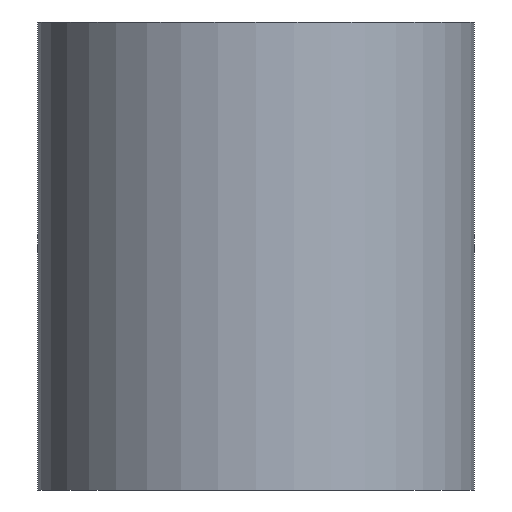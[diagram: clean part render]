
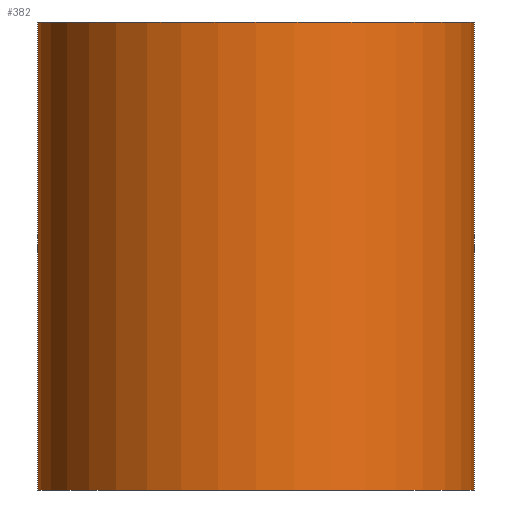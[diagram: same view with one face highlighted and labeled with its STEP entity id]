
A CAD part, front view. The second image highlights one B-rep face of the part: STEP entity #382.
In plain terms, the highlighted cylindrical face has radius 7 mm (diameter 14 mm), a full revolution.
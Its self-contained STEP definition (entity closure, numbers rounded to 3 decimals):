
#275=CARTESIAN_POINT('',(0.0,0.0,0.0));
#276=DIRECTION('',(0.0,0.0,1.0));
#277=DIRECTION('',(-1.0,0.0,0.0));
#278=AXIS2_PLACEMENT_3D('',#275,#276,#277);
#279=CYLINDRICAL_SURFACE('',#278,7.);
#280=CARTESIAN_POINT('',(7.,0.,7.5));
#281=VERTEX_POINT('',#280);
#282=CARTESIAN_POINT('',(0.0,0.0,7.5));
#283=DIRECTION('',(0.0,0.0,-1.0));
#284=DIRECTION('',(-1.0,0.0,0.0));
#285=AXIS2_PLACEMENT_3D('',#282,#283,#284);
#286=CIRCLE('',#285,7.);
#287=EDGE_CURVE('',#281,#281,#286,.T.);
#288=ORIENTED_EDGE('',*,*,#287,.T.);
#289=EDGE_LOOP('',(#288));
#290=FACE_OUTER_BOUND('',#289,.T.);
#291=CARTESIAN_POINT('',(7.,0.,-7.5));
#292=VERTEX_POINT('',#291);
#293=CARTESIAN_POINT('',(0.0,0.0,-7.5));
#294=DIRECTION('',(0.0,0.0,1.0));
#295=DIRECTION('',(-1.0,0.0,0.0));
#296=AXIS2_PLACEMENT_3D('',#293,#294,#295);
#297=CIRCLE('',#296,7.);
#298=EDGE_CURVE('',#292,#292,#297,.T.);
#299=ORIENTED_EDGE('',*,*,#298,.T.);
#300=EDGE_LOOP('',(#299));
#301=FACE_BOUND('',#300,.T.);
#302=CARTESIAN_POINT('',(-5.0,4.899,0.0));
#303=VERTEX_POINT('',#302);
#304=CARTESIAN_POINT('',(-5.0,4.899,0.));
#305=CARTESIAN_POINT('',(-5.0,4.899,0.486));
#306=CARTESIAN_POINT('',(-4.927,4.976,0.979));
#307=CARTESIAN_POINT('',(-4.786,5.108,1.445));
#308=CARTESIAN_POINT('',(-4.592,5.29,2.091));
#309=CARTESIAN_POINT('',(-4.265,5.572,2.686));
#310=CARTESIAN_POINT('',(-3.859,5.841,3.18));
#311=CARTESIAN_POINT('',(-3.664,5.969,3.416));
#312=CARTESIAN_POINT('',(-3.458,6.092,3.625));
#313=CARTESIAN_POINT('',(-3.223,6.214,3.823));
#314=CARTESIAN_POINT('',(-2.808,6.429,4.173));
#315=CARTESIAN_POINT('',(-2.311,6.631,4.472));
#316=CARTESIAN_POINT('',(-1.769,6.773,4.677));
#317=CARTESIAN_POINT('',(-1.361,6.879,4.831));
#318=CARTESIAN_POINT('',(-0.928,6.952,4.932));
#319=CARTESIAN_POINT('',(-0.496,6.982,4.975));
#320=CARTESIAN_POINT('',(-0.133,7.008,5.011));
#321=CARTESIAN_POINT('',(0.225,7.006,5.008));
#322=CARTESIAN_POINT('',(0.588,6.975,4.965));
#323=CARTESIAN_POINT('',(1.153,6.928,4.898));
#324=CARTESIAN_POINT('',(1.715,6.808,4.73));
#325=CARTESIAN_POINT('',(2.22,6.638,4.48));
#326=CARTESIAN_POINT('',(2.529,6.535,4.327));
#327=CARTESIAN_POINT('',(2.817,6.415,4.144));
#328=CARTESIAN_POINT('',(3.077,6.287,3.941));
#329=CARTESIAN_POINT('',(3.254,6.201,3.803));
#330=CARTESIAN_POINT('',(3.417,6.112,3.657));
#331=CARTESIAN_POINT('',(3.567,6.023,3.504));
#332=CARTESIAN_POINT('',(3.988,5.774,3.076));
#333=CARTESIAN_POINT('',(4.352,5.493,2.544));
#334=CARTESIAN_POINT('',(4.603,5.274,1.952));
#335=CARTESIAN_POINT('',(4.802,5.1,1.482));
#336=CARTESIAN_POINT('',(4.932,4.968,0.973));
#337=CARTESIAN_POINT('',(4.979,4.92,0.459));
#338=CARTESIAN_POINT('',(5.019,4.88,0.029));
#339=CARTESIAN_POINT('',(5.002,4.898,-0.403));
#340=CARTESIAN_POINT('',(4.931,4.969,-0.829));
#341=CARTESIAN_POINT('',(4.826,5.072,-1.45));
#342=CARTESIAN_POINT('',(4.602,5.289,-2.047));
#343=CARTESIAN_POINT('',(4.288,5.533,-2.571));
#344=CARTESIAN_POINT('',(4.125,5.659,-2.843));
#345=CARTESIAN_POINT('',(3.938,5.792,-3.096));
#346=CARTESIAN_POINT('',(3.735,5.92,-3.324));
#347=CARTESIAN_POINT('',(3.575,6.021,-3.504));
#348=CARTESIAN_POINT('',(3.407,6.119,-3.668));
#349=CARTESIAN_POINT('',(3.22,6.216,-3.825));
#350=CARTESIAN_POINT('',(2.811,6.427,-4.17));
#351=CARTESIAN_POINT('',(2.321,6.627,-4.465));
#352=CARTESIAN_POINT('',(1.789,6.768,-4.669));
#353=CARTESIAN_POINT('',(1.267,6.906,-4.869));
#354=CARTESIAN_POINT('',(0.701,6.987,-4.981));
#355=CARTESIAN_POINT('',(0.151,6.998,-4.998));
#356=CARTESIAN_POINT('',(-0.134,7.005,-5.006));
#357=CARTESIAN_POINT('',(-0.419,6.993,-4.991));
#358=CARTESIAN_POINT('',(-0.705,6.964,-4.95));
#359=CARTESIAN_POINT('',(-1.258,6.908,-4.871));
#360=CARTESIAN_POINT('',(-1.803,6.784,-4.696));
#361=CARTESIAN_POINT('',(-2.292,6.614,-4.444));
#362=CARTESIAN_POINT('',(-2.638,6.494,-4.265));
#363=CARTESIAN_POINT('',(-2.958,6.352,-4.048));
#364=CARTESIAN_POINT('',(-3.239,6.206,-3.809));
#365=CARTESIAN_POINT('',(-3.452,6.094,-3.628));
#366=CARTESIAN_POINT('',(-3.642,5.982,-3.437));
#367=CARTESIAN_POINT('',(-3.821,5.865,-3.225));
#368=CARTESIAN_POINT('',(-4.191,5.624,-2.786));
#369=CARTESIAN_POINT('',(-4.499,5.37,-2.264));
#370=CARTESIAN_POINT('',(-4.704,5.184,-1.695));
#371=CARTESIAN_POINT('',(-4.873,5.03,-1.226));
#372=CARTESIAN_POINT('',(-4.973,4.927,-0.723));
#373=CARTESIAN_POINT('',(-4.995,4.904,-0.221));
#374=CARTESIAN_POINT('',(-4.998,4.901,-0.148));
#375=CARTESIAN_POINT('',(-5.0,4.899,-0.074));
#376=CARTESIAN_POINT('',(-5.0,4.899,0.));
#377=B_SPLINE_CURVE_WITH_KNOTS('',3,(#304,#305,#306,#307,#308,#309,#310,#311,#312,#313,#314,#315,#316,#317,#318,#319,#320,#321,#322,#323,#324,#325,#326,#327,#328,#329,#330,#331,#332,#333,#334,#335,#336,#337,#338,#339,#340,#341,#342,#343,#344,#345,#346,#347,#348,#349,#350,#351,#352,#353,#354,#355,#356,#357,#358,#359,#360,#361,#362,#363,#364,#365,#366,#367,#368,#369,#370,#371,#372,#373,#374,#375,#376),.UNSPECIFIED.,.T.,.U.,(4,3,3,3,3,3,3,3,3,3,3,3,3,3,3,3,3,3,3,3,3,3,3,3,4),(0.0,0.146,0.348,0.444,0.614,0.742,0.85,1.017,1.119,1.189,1.383,1.537,1.666,1.853,1.95,2.027,2.195,2.359,2.444,2.608,2.724,2.812,2.993,3.143,3.165),.UNSPECIFIED.);
#378=EDGE_CURVE('',#303,#303,#377,.T.);
#379=ORIENTED_EDGE('',*,*,#378,.F.);
#380=EDGE_LOOP('',(#379));
#381=FACE_BOUND('',#380,.T.);
#382=ADVANCED_FACE('',(#290,#301,#381),#279,.T.);
